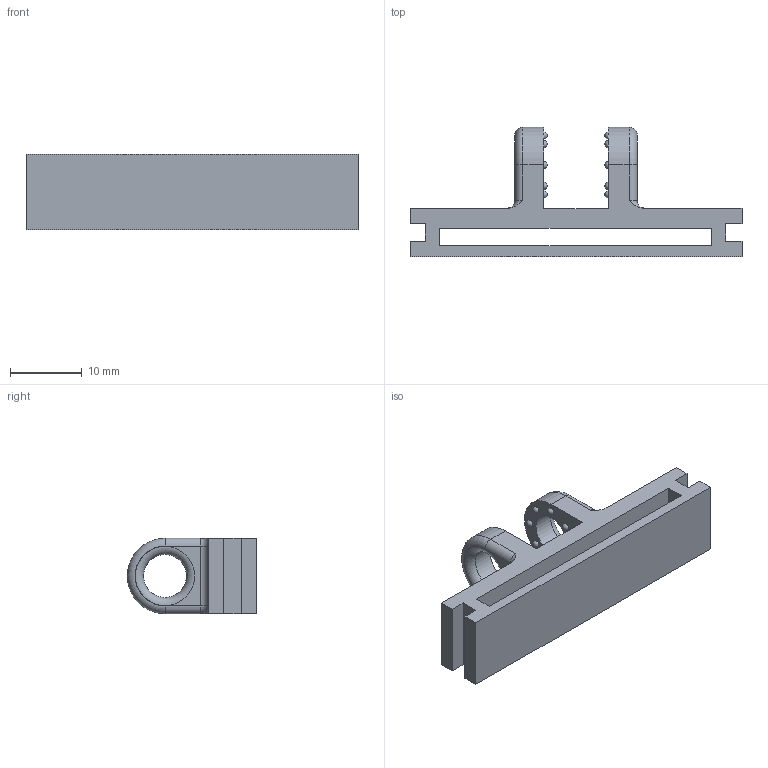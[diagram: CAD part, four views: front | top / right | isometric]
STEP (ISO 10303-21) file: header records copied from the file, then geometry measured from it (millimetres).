
FILE_DESCRIPTION(/* description */ ('Alibre Inc.'),/* implementation_level */ '2;1');
FILE_NAME(/* name */ 'export0',/* time_stamp */ '2018-08-03T14:54:26-04:00',/* author */ (''),/* organization */ (''),/* preprocessor_version */ 'ST-DEVELOPER v17',/* originating_system */ 'Alibre',/* authorisation */ '');
FILE_SCHEMA (('AUTOMOTIVE_DESIGN'));
Length unit declared in the file: millimetre
Bounding box: 46.16 x 18 x 10.5 mm (x, y, z)
Volume: 2776.9 mm3; surface area: 3030.9 mm2
Topology: 1 solids, 1 shells, 58 faces, 160 edges, 104 vertices
Faces by surface type: plane 24, sphere 16, cylinder 10, torus 8
Full cylindrical faces by diameter (mm): 6 x2
Entity records: 1659 total; most frequent: CARTESIAN_POINT 376, ORIENTED_EDGE 244, DIRECTION 238, EDGE_CURVE 122, AXIS2_PLACEMENT_3D 99, VERTEX_POINT 86, EDGE_LOOP 84, FACE_BOUND 84
